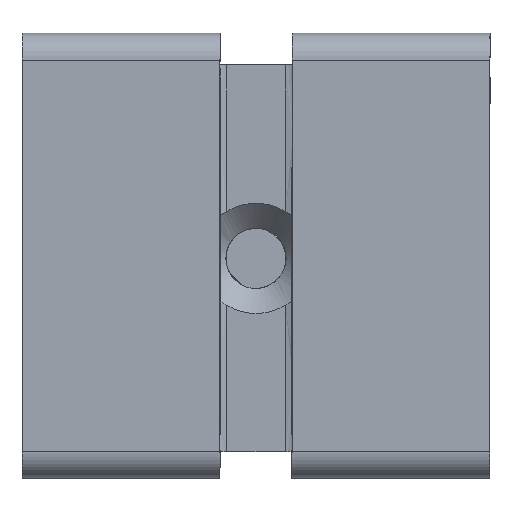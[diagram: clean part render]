
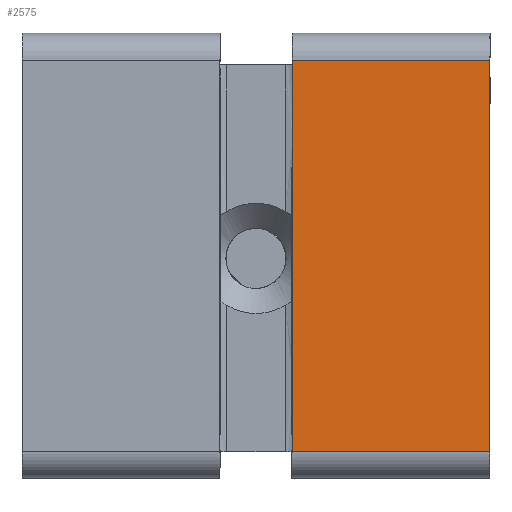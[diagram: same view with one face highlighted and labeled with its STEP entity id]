
A CAD part, top view. The second image highlights one B-rep face of the part: STEP entity #2575.
In plain terms, the highlighted free-form (B-spline) face has degree [1, 1] with [2, 2] control points.
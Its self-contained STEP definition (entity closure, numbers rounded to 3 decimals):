
#2515=CARTESIAN_POINT('',(11.,-21.75,-3.));
#2516=VERTEX_POINT('',#2515);
#2523=CARTESIAN_POINT('',(-11.,-21.75,-3.));
#2524=VERTEX_POINT('',#2523);
#2525=CARTESIAN_POINT('',(11.,-21.75,-3.));
#2526=CARTESIAN_POINT('',(-11.,-21.75,-3.));
#2527=B_SPLINE_CURVE_WITH_KNOTS('',1,(#2525,#2526),.POLYLINE_FORM.,.F.,.U.,(2,2),(0.,1.),.UNSPECIFIED.);
#2528=EDGE_CURVE('',#2516,#2524,#2527,.T.);
#2546=CARTESIAN_POINT('',(26.1,26.1,-3.));
#2547=CARTESIAN_POINT('',(-26.1,26.1,-3.));
#2548=CARTESIAN_POINT('',(26.1,-26.1,-3.));
#2549=CARTESIAN_POINT('',(-26.1,-26.1,-3.));
#2550=B_SPLINE_SURFACE_WITH_KNOTS('',1,1,((#2546,#2547),(#2548,#2549)),.PLANE_SURF.,.F.,.F.,.U.,(2,2),(2,2),(0.,1.),(0.,1.),.UNSPECIFIED.);
#2551=ORIENTED_EDGE('',*,*,#2528,.T.);
#2552=CARTESIAN_POINT('',(-11.,21.75,-3.));
#2553=VERTEX_POINT('',#2552);
#2554=CARTESIAN_POINT('',(-11.,-21.75,-3.));
#2555=CARTESIAN_POINT('',(-11.,0.,-3.));
#2556=CARTESIAN_POINT('',(-11.,21.75,-3.));
#2557=B_SPLINE_CURVE_WITH_KNOTS('',1,(#2554,#2555,#2556),.UNSPECIFIED.,.F.,.U.,(2,1,2),(0.,1.,2.),.UNSPECIFIED.);
#2558=EDGE_CURVE('',#2524,#2553,#2557,.T.);
#2559=ORIENTED_EDGE('',*,*,#2558,.T.);
#2560=CARTESIAN_POINT('',(11.,21.75,-3.));
#2561=VERTEX_POINT('',#2560);
#2562=CARTESIAN_POINT('',(11.,21.75,-3.));
#2563=CARTESIAN_POINT('',(-11.,21.75,-3.));
#2564=B_SPLINE_CURVE_WITH_KNOTS('',1,(#2562,#2563),.POLYLINE_FORM.,.F.,.U.,(2,2),(0.,1.),.UNSPECIFIED.);
#2565=EDGE_CURVE('',#2561,#2553,#2564,.T.);
#2566=ORIENTED_EDGE('',*,*,#2565,.F.);
#2567=CARTESIAN_POINT('',(11.,-21.75,-3.));
#2568=CARTESIAN_POINT('',(11.,0.,-3.));
#2569=CARTESIAN_POINT('',(11.,21.75,-3.));
#2570=B_SPLINE_CURVE_WITH_KNOTS('',1,(#2567,#2568,#2569),.UNSPECIFIED.,.F.,.U.,(2,1,2),(0.,1.,2.),.UNSPECIFIED.);
#2571=EDGE_CURVE('',#2516,#2561,#2570,.T.);
#2572=ORIENTED_EDGE('',*,*,#2571,.F.);
#2573=EDGE_LOOP('',(#2551,#2559,#2566,#2572));
#2574=FACE_OUTER_BOUND('',#2573,.T.);
#2575=ADVANCED_FACE('',(#2574),#2550,.T.);
